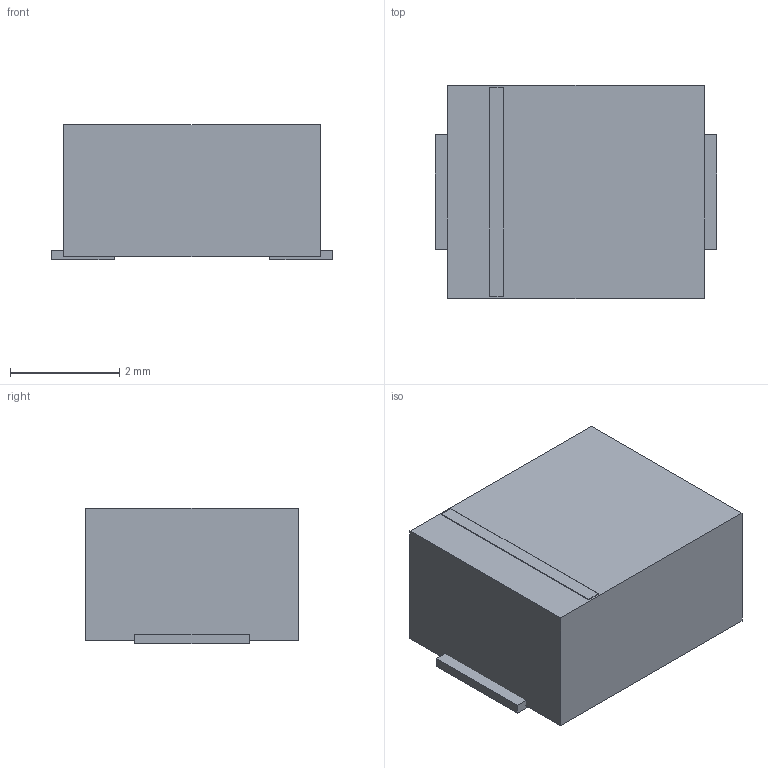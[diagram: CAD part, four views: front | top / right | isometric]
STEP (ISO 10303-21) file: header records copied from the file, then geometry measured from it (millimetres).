
FILE_DESCRIPTION(('FreeCAD Model'),'2;1');
FILE_NAME('Open CASCADE Shape Model','2026-09-23T12:07:02',('FreeCAD'),( 'FreeCAD'),'Open CASCADE STEP processor 7.8','FreeCAD','Unknown');
FILE_SCHEMA(('AUTOMOTIVE_DESIGN { 1 0 10303 214 1 1 1 1 }'));
Length unit declared in the file: millimetre
Products named in the file (1): Open CASCADE STEP translator 7.8 33
Bounding box: 5.15 x 3.9 x 2.49 mm (x, y, z)
Volume: 45.2 mm3; surface area: 92.3 mm2
Topology: 4 solids, 4 shells, 24 faces, 48 edges, 32 vertices
Faces by surface type: plane 24
Entity records: 616 total; most frequent: CARTESIAN_POINT 105, DIRECTION 98, ORIENTED_EDGE 96, EDGE_CURVE 48, LINE 48, VECTOR 48, VERTEX_POINT 32, AXIS2_PLACEMENT_3D 25
